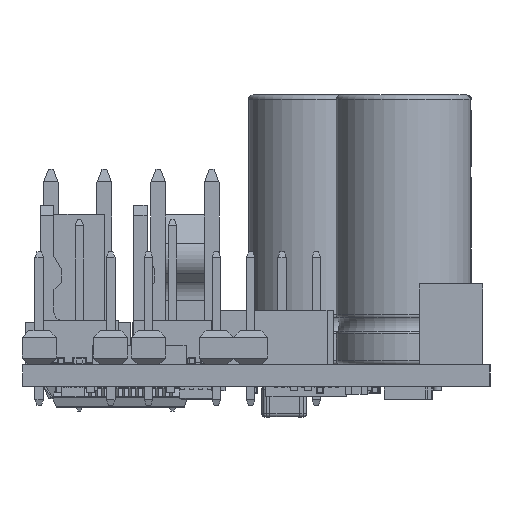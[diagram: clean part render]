
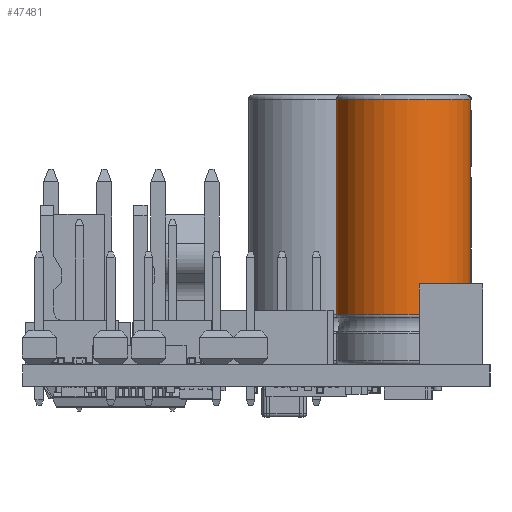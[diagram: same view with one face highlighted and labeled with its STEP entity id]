
A CAD part, left-side view. The second image highlights one B-rep face of the part: STEP entity #47481.
In plain terms, the highlighted cylindrical face has radius 5 mm (diameter 10 mm), a partial arc.
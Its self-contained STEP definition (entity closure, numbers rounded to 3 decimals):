
#6038=FACE_OUTER_BOUND('',#9344,.T.);
#9344=EDGE_LOOP('',(#42852,#42853,#42854,#42855));
#13831=LINE('',#80313,#18337);
#13842=LINE('',#80383,#18348);
#18337=VECTOR('',#64740,1.);
#18348=VECTOR('',#64811,1.);
#19887=CIRCLE('',#52137,5.);
#19888=CIRCLE('',#52139,5.);
#23982=VERTEX_POINT('',#80309);
#23984=VERTEX_POINT('',#80312);
#24005=VERTEX_POINT('',#80363);
#24013=VERTEX_POINT('',#80381);
#30263=EDGE_CURVE('',#23984,#23982,#13831,.T.);
#30299=EDGE_CURVE('',#24005,#24013,#13842,.T.);
#30303=EDGE_CURVE('',#24005,#23982,#19887,.T.);
#30304=EDGE_CURVE('',#23984,#24013,#19888,.T.);
#42852=ORIENTED_EDGE('',*,*,#30263,.T.);
#42853=ORIENTED_EDGE('',*,*,#30303,.F.);
#42854=ORIENTED_EDGE('',*,*,#30299,.T.);
#42855=ORIENTED_EDGE('',*,*,#30304,.F.);
#43855=CYLINDRICAL_SURFACE('',#52138,5.);
#47481=ADVANCED_FACE('',(#6038),#43855,.T.);
#52137=AXIS2_PLACEMENT_3D('',#80392,#64828,#64829);
#52138=AXIS2_PLACEMENT_3D('',#80393,#64830,#64831);
#52139=AXIS2_PLACEMENT_3D('',#80394,#64832,#64833);
#64740=DIRECTION('',(0.,0.,1.));
#64811=DIRECTION('',(0.,0.,-1.));
#64828=DIRECTION('center_axis',(0.,0.,1.));
#64829=DIRECTION('ref_axis',(-1.,0.,0.));
#64830=DIRECTION('center_axis',(0.,0.,1.));
#64831=DIRECTION('ref_axis',(-1.,0.,0.));
#64832=DIRECTION('center_axis',(0.,0.,-1.));
#64833=DIRECTION('ref_axis',(1.,0.,0.));
#80309=CARTESIAN_POINT('',(4.938,-0.782,19.667));
#80312=CARTESIAN_POINT('',(4.938,-0.782,3.702));
#80313=CARTESIAN_POINT('',(4.938,-0.782,10.));
#80363=CARTESIAN_POINT('',(4.938,0.782,19.667));
#80381=CARTESIAN_POINT('',(4.938,0.782,3.702));
#80383=CARTESIAN_POINT('',(4.938,0.782,10.));
#80392=CARTESIAN_POINT('Origin',(0.,0.,19.667));
#80393=CARTESIAN_POINT('Origin',(0.,0.,10.));
#80394=CARTESIAN_POINT('Origin',(0.,0.,3.702));
